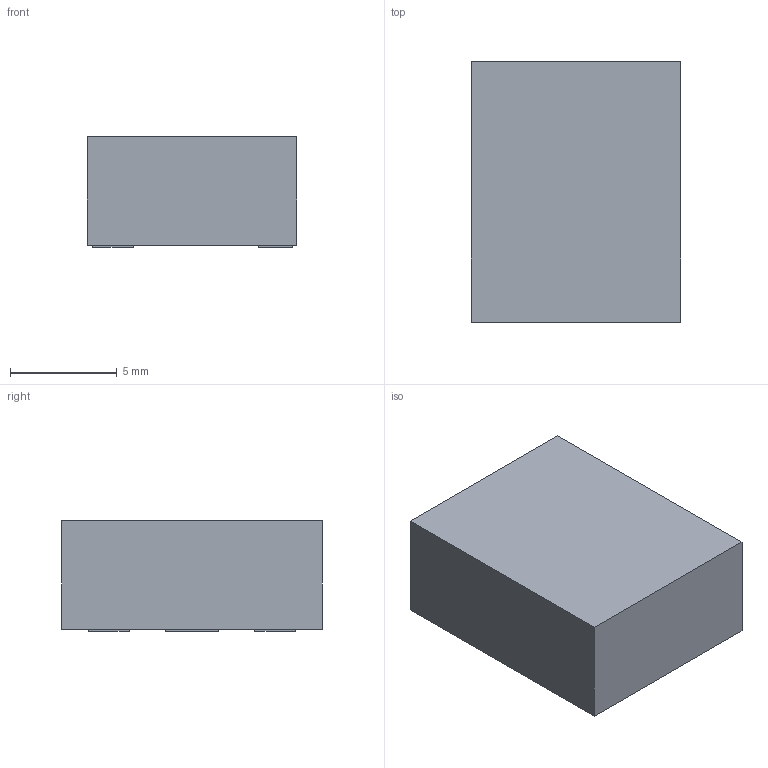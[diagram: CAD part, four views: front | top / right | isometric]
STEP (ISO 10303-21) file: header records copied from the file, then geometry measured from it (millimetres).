
FILE_DESCRIPTION(('FreeCAD Model'),'2;1');
FILE_NAME('/var/www/3D/0T/1335673.1.2.stp','2020-04-10T03:56:03',( 'Author'),(''),'Open CASCADE STEP processor 6.9','FreeCAD','Unknown' );
FILE_SCHEMA(('AUTOMOTIVE_DESIGN { 1 0 10303 214 1 1 1 1 }'));
Length unit declared in the file: millimetre
Products named in the file (3): ASSEMBLY; Body; Pins
Assembly tree (2 placements, depth 2):
  ASSEMBLY
    Body
    Pins
Bounding box: 9.8 x 12.2 x 5.2 mm (x, y, z)
Volume: 610.9 mm3; surface area: 488.6 mm2
Topology: 4 solids, 4 shells, 24 faces, 48 edges, 32 vertices
Faces by surface type: plane 24
Entity records: 1316 total; most frequent: CARTESIAN_POINT 203, DIRECTION 198, LINE 144, VECTOR 144, ORIENTED_EDGE 96, PCURVE 96, DEFINITIONAL_REPRESENTATION 96, EDGE_CURVE 48
